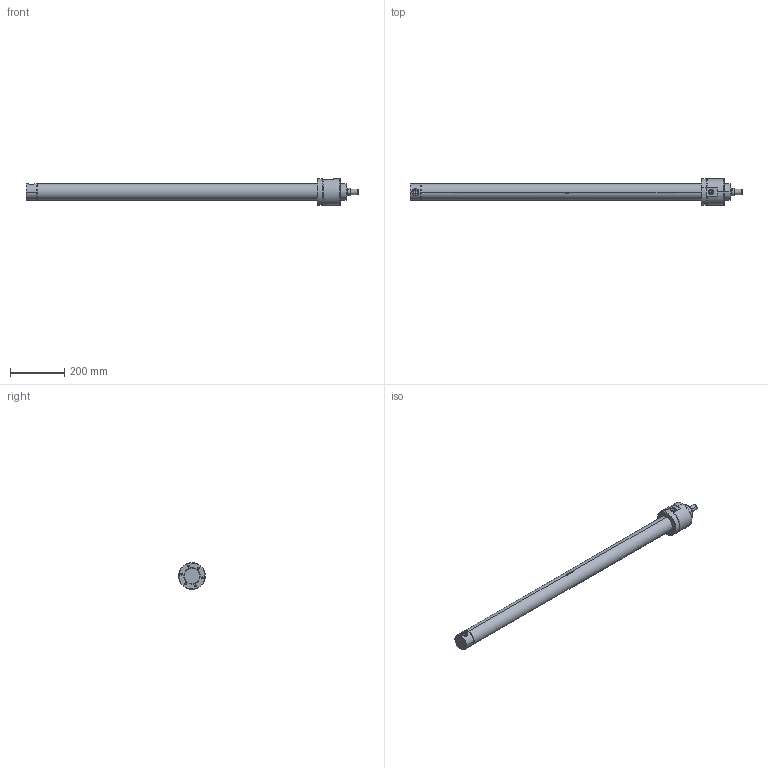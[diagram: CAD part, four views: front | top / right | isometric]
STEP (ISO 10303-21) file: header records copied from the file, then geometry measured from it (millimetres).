
FILE_DESCRIPTION (( 'STEP AP214' ), '1' );
FILE_NAME ('KHCC_50_28_1000_WEB.STEP', '2020-12-15T11:46:28', ( '' ), ( '' ), 'SwSTEP 2.0', 'SolidWorks 2021', '' );
FILE_SCHEMA (( 'AUTOMOTIVE_DESIGN' ));
Length unit declared in the file: millimetre
Products named in the file (9): 28_K_MIL_WEB; 50_28_烰_KAPAK; KHCC_50_28_1000_WEB; 50_28_gerdirme_flans; K32-28X38X6; K06-28X38_2X5_3X7; TYAK_50_60; 50_H.BORU_WEB
Assembly tree (8 placements, depth 3):
  KHCC_50_28_1000_WEB
    50_28_烰_KAPAK
      50_28_烰_KAPAK
      K06-28X38_2X5_3X7
      K32-28X38X6
      50_28_gerdirme_flans
    50_H.BORU_WEB
    28_K_MIL_WEB
    TYAK_50_60
Bounding box: 1228 x 98 x 98 mm (x, y, z)
Volume: 1610316.1 mm3; surface area: 482228.2 mm2
Topology: 7 solids, 7 shells, 468 faces, 1110 edges, 690 vertices
Faces by surface type: bspline 165, plane 120, cylinder 113, cone 66, torus 4
Entity records: 20644 total; most frequent: CARTESIAN_POINT 8588, ORIENTED_EDGE 2220, DIRECTION 1674, EDGE_CURVE 1110, VERTEX_POINT 690, AXIS2_PLACEMENT_3D 621, EDGE_LOOP 540, ADVANCED_FACE 468
